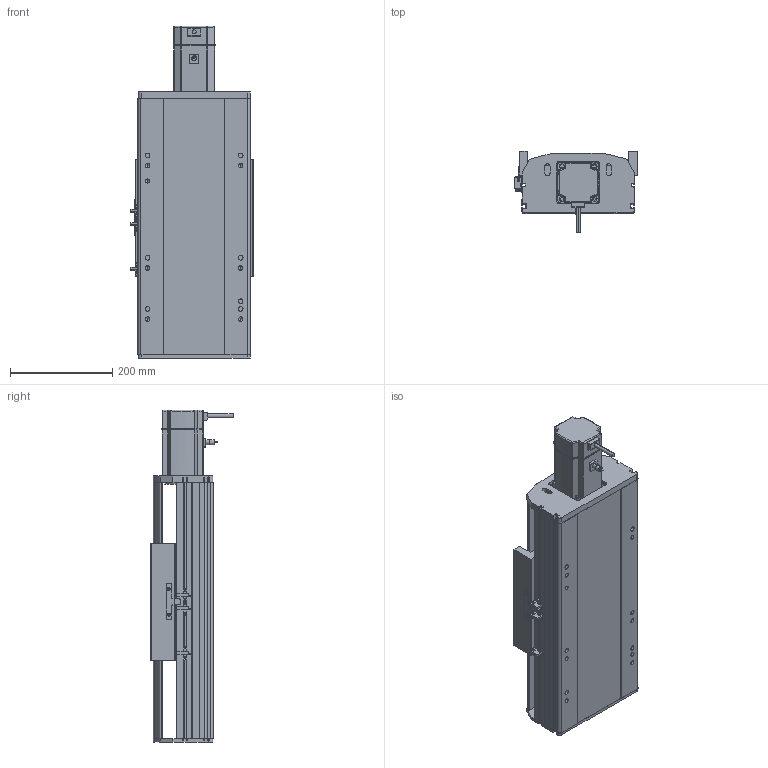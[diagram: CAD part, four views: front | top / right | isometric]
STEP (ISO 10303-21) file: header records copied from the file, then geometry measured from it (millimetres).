
FILE_DESCRIPTION (( 'STEP AP214' ), '1' );
FILE_NAME ('RTH22-XX-100-E-M75-C4.STEP', '2025-10-24T10:40:44', ( 'Microsoft' ), ( 'Microsoft' ), 'SwSTEP 2.0', 'SolidWorks 2018', '' );
FILE_SCHEMA (( 'AUTOMOTIVE_DESIGN' ));
Length unit declared in the file: millimetre
Products named in the file (9): N_RTH22-E-008萇儂啣^RTH22-XX-XX-E-M75-C4; RTH22-XX-100-E-M75-C4; N_RTH22-E-011菁釱^RTH22-XX-XX-E-M75-C4; N_RTH22-E-004-SFS25賑釱^RTH22-XX-XX-E-M75-C4; N_OMRON EE-SX672 传感器^RTH22-XX-XX-E-M75-C4; N_RTH22-E-007奻裔^RTH22-XX-XX-E-M75-C4; N_RTH22-GY-013外置感应片^RTH22-XX-XX-E-M75-C4; N_750W萇儂^RTH22-XX-XX-E-M75-C4; N_RTH22-GY-001耜裔^RTH22-XX-XX-E-M75-C4
Assembly tree (10 placements, depth 2):
  RTH22-XX-100-E-M75-C4
    N_RTH22-E-011菁釱^RTH22-XX-XX-E-M75-C4
    N_RTH22-GY-001耜裔^RTH22-XX-XX-E-M75-C4
    N_RTH22-E-008萇儂啣^RTH22-XX-XX-E-M75-C4
    N_RTH22-E-007奻裔^RTH22-XX-XX-E-M75-C4
    N_RTH22-GY-013外置感应片^RTH22-XX-XX-E-M75-C4
    N_RTH22-E-004-SFS25賑釱^RTH22-XX-XX-E-M75-C4
    N_750W萇儂^RTH22-XX-XX-E-M75-C4
    N_OMRON EE-SX672 传感器^RTH22-XX-XX-E-M75-C4  x3
Bounding box: 238.5 x 160.7 x 649 mm (x, y, z)
Volume: 8899506 mm3; surface area: 970689.6 mm2
Topology: 10 solids, 10 shells, 1469 faces, 4024 edges, 2609 vertices
Faces by surface type: plane 748, cylinder 400, bspline 279, cone 42
Entity records: 35831 total; most frequent: CARTESIAN_POINT 11385, ORIENTED_EDGE 5056, DIRECTION 4674, EDGE_CURVE 2528, VERTEX_POINT 1645, LINE 1590, VECTOR 1590, AXIS2_PLACEMENT_3D 1542
